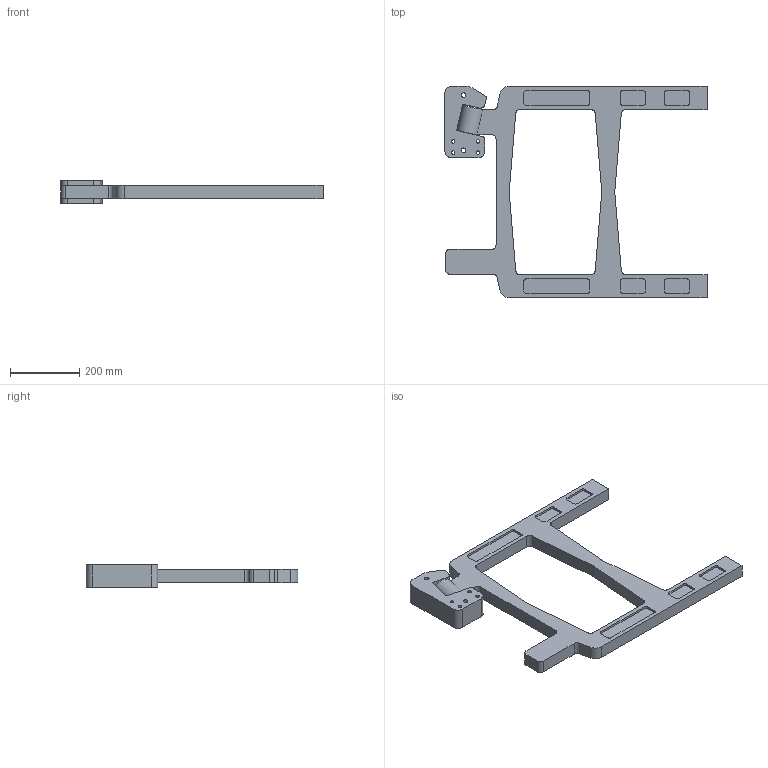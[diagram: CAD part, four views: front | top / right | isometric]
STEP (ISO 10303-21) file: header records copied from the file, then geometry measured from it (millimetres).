
FILE_DESCRIPTION(/* description */ (''),/* implementation_level */ '2;1');
FILE_NAME(/* name */ 'D:\VDV Techniek\Documents\Inventor\_ISP_Products\Safety Gate nagetekend model\UDG-22_Safety_Gate.stp',/* time_stamp */ '2017-06-06T22:16:46+02:00',/* author */ ('VDV Techniek'),/* organization */ (''),/* preprocessor_version */ 'ST-DEVELOPER v15.2',/* originating_system */ 'Autodesk Inventor 2014',/* authorisation */ '');
FILE_SCHEMA (('AUTOMOTIVE_DESIGN { 1 0 10303 214 3 1 1 }'));
Length unit declared in the file: millimetre
Products named in the file (3): Hinge; Blade UDG-22; UDG-22_Safety_Gate
Bounding box: 756.13 x 610.03 x 64 mm (x, y, z)
Volume: 6372426.8 mm3; surface area: 601739 mm2
Topology: 2 solids, 2 shells, 182 faces, 488 edges, 324 vertices
Faces by surface type: plane 100, cylinder 82
Full cylindrical faces by diameter (mm): 10 x4, 13.21 x2, 25.65 x3
Entity records: 5776 total; most frequent: DIRECTION 1017, CARTESIAN_POINT 990, ORIENTED_EDGE 958, EDGE_CURVE 479, AXIS2_PLACEMENT_3D 351, VERTEX_POINT 324, LINE 315, VECTOR 315
